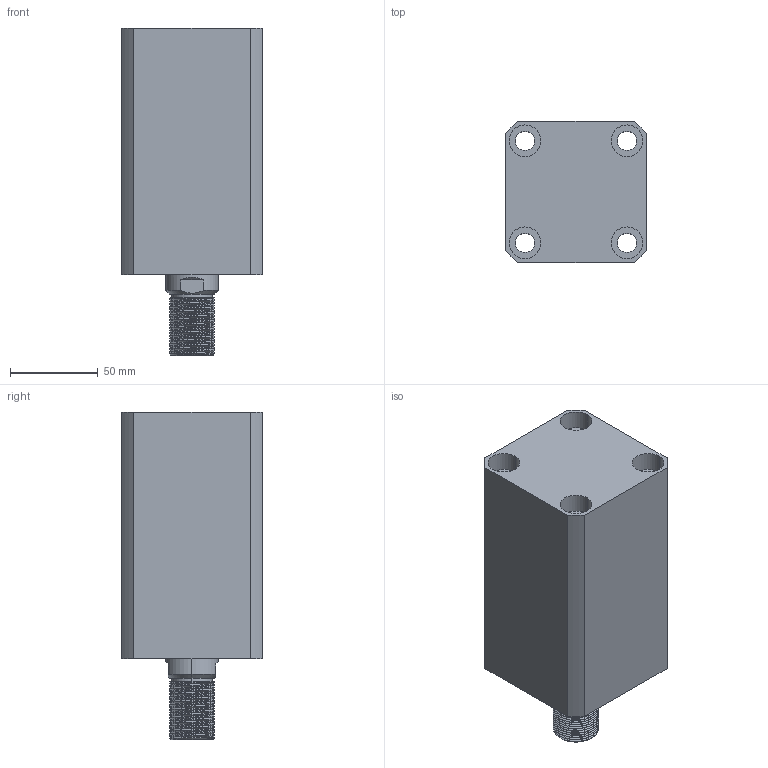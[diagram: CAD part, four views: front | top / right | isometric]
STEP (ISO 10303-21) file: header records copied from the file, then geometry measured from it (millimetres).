
FILE_DESCRIPTION (( 'STEP AP203' ), '1' );
FILE_NAME ('CHTB-SD50-80W.STEP', '2018-05-19T00:34:59', ( '' ), ( '' ), 'SwSTEP 2.0', 'SolidWorks 2015', '' );
FILE_SCHEMA (( 'CONFIG_CONTROL_DESIGN' ));
Length unit declared in the file: millimetre
Products named in the file (4): 掛极SD50-80W; 活塞杆SD50-80W; CHTM-SD50QG; CHTB-SD50-80W
Assembly tree (3 placements, depth 2):
  CHTB-SD50-80W
    掛极SD50-80W
    活塞杆SD50-80W
    CHTM-SD50QG
Bounding box: 80 x 80 x 186 mm (x, y, z)
Volume: 733982 mm3; surface area: 137180 mm2
Topology: 3 solids, 3 shells, 236 faces, 627 edges, 419 vertices
Faces by surface type: cylinder 144, plane 41, cone 19, bspline 16, torus 16
Entity records: 14613 total; most frequent: CARTESIAN_POINT 8784, ORIENTED_EDGE 1246, DIRECTION 1029, EDGE_CURVE 623, AXIS2_PLACEMENT_3D 422, VERTEX_POINT 419, EDGE_LOOP 276, FACE_OUTER_BOUND 236
